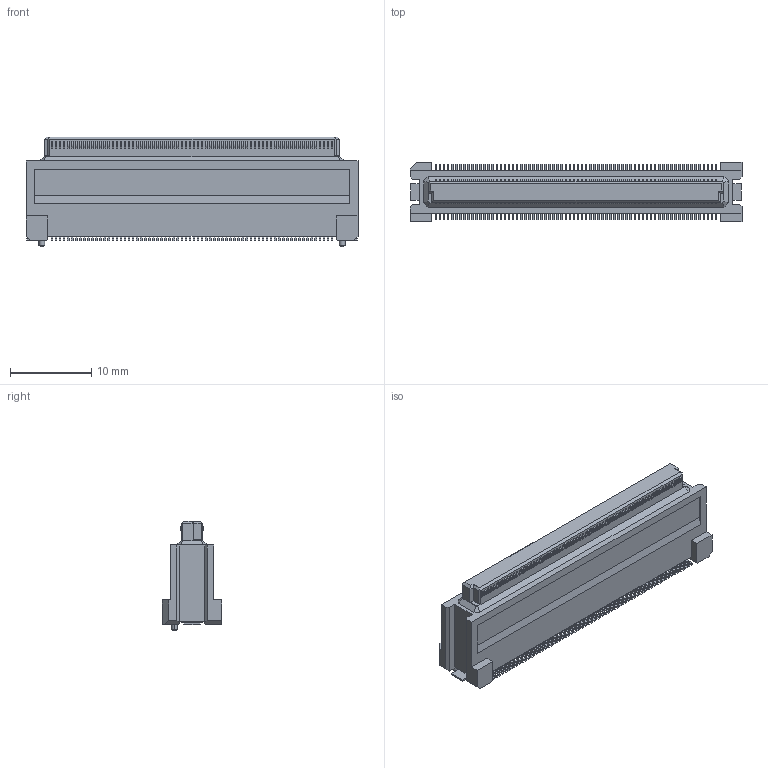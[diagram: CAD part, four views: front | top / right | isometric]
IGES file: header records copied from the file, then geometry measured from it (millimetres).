
Start section: Elysium IGES Interface
Global section: file name: C:\Users\1354\Desktop\DY11-140FS-4.igs; native system: CoCreate Modeling 17.0B  09-Oct-2010; preprocessor: CoCreate IGES_3D V2.2; author: Unknown; organization: Unknown; date: 20170908.105718; units: millimetre
Bounding box: 40.9 x 7.3 x 13.5 mm (x, y, z)
Volume: 2104.9 mm3; surface area: 1850.4 mm2
Topology: 1 solids, 1 shells, 1980 faces, 5453 edges, 3622 vertices
Faces by surface type: bspline 1980
